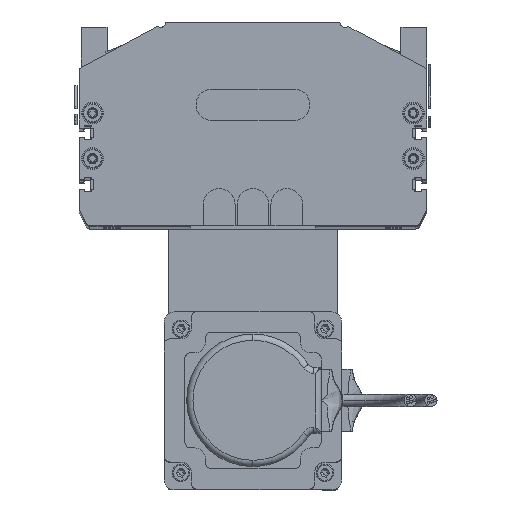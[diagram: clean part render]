
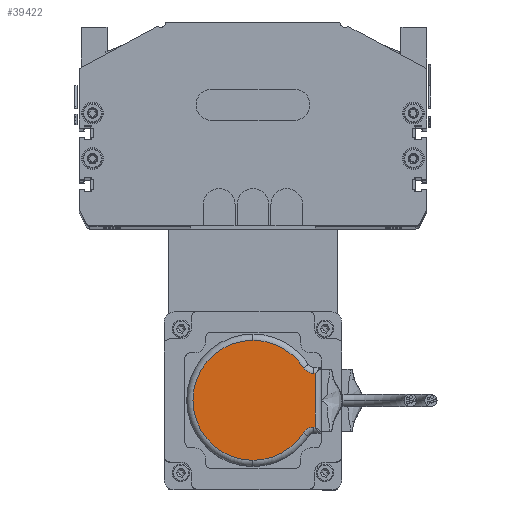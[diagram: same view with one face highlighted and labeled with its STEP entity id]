
A CAD part, top view. The second image highlights one B-rep face of the part: STEP entity #39422.
In plain terms, the highlighted planar face has unit normal (0, 0, 1).
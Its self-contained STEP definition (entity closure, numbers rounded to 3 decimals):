
#16791 = VERTEX_POINT ( 'NONE', #38836 ) ;
#16807 = EDGE_CURVE ( 'NONE', #16822, #16791, #38907, .T. ) ;
#16822 = VERTEX_POINT ( 'NONE', #38938 ) ;
#16857 = VERTEX_POINT ( 'NONE', #38957 ) ;
#38836 = CARTESIAN_POINT ( 'NONE',  ( 4., 33., 26. ) ) ;
#38898 = DIRECTION ( 'NONE',  ( 1., 0., 0. ) ) ;
#38899 = DIRECTION ( 'NONE',  ( 0., 0., 1. ) ) ;
#38900 = CARTESIAN_POINT ( 'NONE',  ( 33., 33., 26. ) ) ;
#38907 = CIRCLE ( 'NONE', #38909, 29. ) ;
#38909 = AXIS2_PLACEMENT_3D ( 'NONE', #38900, #38899, #38898 ) ;
#38938 = CARTESIAN_POINT ( 'NONE',  ( 17.257, 57.355, 26. ) ) ;
#38957 = CARTESIAN_POINT ( 'NONE',  ( 62., 33., 26. ) ) ;
#39061 = VERTEX_POINT ( 'NONE', #71705 ) ;
#39212 = VERTEX_POINT ( 'NONE', #71682 ) ;
#39357 = ORIENTED_EDGE ( 'NONE', *, *, #39487, .T. ) ;
#39366 = EDGE_CURVE ( 'NONE', #16791, #16857, #71767, .T. ) ;
#39373 = ORIENTED_EDGE ( 'NONE', *, *, #39399, .T. ) ;
#39378 = VERTEX_POINT ( 'NONE', #71815 ) ;
#39386 = EDGE_LOOP ( 'NONE', ( #39403, #39402, #39418, #39416, #39398, #39373, #39357, #39411 ) ) ;
#39398 = ORIENTED_EDGE ( 'NONE', *, *, #39414, .F. ) ;
#39399 = EDGE_CURVE ( 'NONE', #39061, #39415, #71881, .T. ) ;
#39402 = ORIENTED_EDGE ( 'NONE', *, *, #16807, .T. ) ;
#39403 = ORIENTED_EDGE ( 'NONE', *, *, #39413, .F. ) ;
#39411 = ORIENTED_EDGE ( 'NONE', *, *, #39480, .T. ) ;
#39412 = VERTEX_POINT ( 'NONE', #71925 ) ;
#39413 = EDGE_CURVE ( 'NONE', #16822, #39212, #71930, .T. ) ;
#39414 = EDGE_CURVE ( 'NONE', #39061, #39378, #71927, .T. ) ;
#39415 = VERTEX_POINT ( 'NONE', #71931 ) ;
#39416 = ORIENTED_EDGE ( 'NONE', *, *, #39417, .T. ) ;
#39417 = EDGE_CURVE ( 'NONE', #16857, #39378, #71972, .T. ) ;
#39418 = ORIENTED_EDGE ( 'NONE', *, *, #39366, .T. ) ;
#39422 = ADVANCED_FACE ( 'NONE', ( #71964 ), #71917, .T. ) ;
#39480 = EDGE_CURVE ( 'NONE', #39412, #39212, #72160, .T. ) ;
#39487 = EDGE_CURVE ( 'NONE', #39415, #39412, #72209, .T. ) ;
#71682 = CARTESIAN_POINT ( 'NONE',  ( 20., 62.394, 26. ) ) ;
#71705 = CARTESIAN_POINT ( 'NONE',  ( 46., 62.394, 26. ) ) ;
#71745 = DIRECTION ( 'NONE',  ( 1., 0., 0. ) ) ;
#71746 = DIRECTION ( 'NONE',  ( 0., 0., 1. ) ) ;
#71747 = CARTESIAN_POINT ( 'NONE',  ( 33., 33., 26. ) ) ;
#71748 = AXIS2_PLACEMENT_3D ( 'NONE', #71747, #71746, #71745 ) ;
#71767 = CIRCLE ( 'NONE', #71748, 29. ) ;
#71815 = CARTESIAN_POINT ( 'NONE',  ( 48.743, 57.355, 26. ) ) ;
#71878 = DIRECTION ( 'NONE',  ( 0., 1., 0. ) ) ;
#71879 = VECTOR ( 'NONE', #71878, 1000. ) ;
#71880 = CARTESIAN_POINT ( 'NONE',  ( 46., 33., 26. ) ) ;
#71881 = LINE ( 'NONE', #71880, #71879 ) ;
#71909 = DIRECTION ( 'NONE',  ( 1., 0., 0. ) ) ;
#71910 = AXIS2_PLACEMENT_3D ( 'NONE', #71973, #71961, #71960 ) ;
#71914 = DIRECTION ( 'NONE',  ( 1., 0., 0. ) ) ;
#71915 = DIRECTION ( 'NONE',  ( 0., 0., 1. ) ) ;
#71916 = CARTESIAN_POINT ( 'NONE',  ( 52., 62.394, 26. ) ) ;
#71917 = PLANE ( 'NONE',  #71910 ) ;
#71919 = DIRECTION ( 'NONE',  ( 0., 0., 1. ) ) ;
#71920 = CARTESIAN_POINT ( 'NONE',  ( 14., 62.394, 26. ) ) ;
#71925 = CARTESIAN_POINT ( 'NONE',  ( 20., 63., 26. ) ) ;
#71926 = AXIS2_PLACEMENT_3D ( 'NONE', #71920, #71915, #71914 ) ;
#71927 = CIRCLE ( 'NONE', #71929, 6. ) ;
#71929 = AXIS2_PLACEMENT_3D ( 'NONE', #71916, #71919, #71909 ) ;
#71930 = CIRCLE ( 'NONE', #71926, 6. ) ;
#71931 = CARTESIAN_POINT ( 'NONE',  ( 46., 63., 26. ) ) ;
#71960 = DIRECTION ( 'NONE',  ( 1., 0., 0. ) ) ;
#71961 = DIRECTION ( 'NONE',  ( 0., 0., 1. ) ) ;
#71964 = FACE_OUTER_BOUND ( 'NONE', #39386, .T. ) ;
#71968 = DIRECTION ( 'NONE',  ( 1., 0., 0. ) ) ;
#71969 = DIRECTION ( 'NONE',  ( 0., 0., 1. ) ) ;
#71970 = CARTESIAN_POINT ( 'NONE',  ( 33., 33., 26. ) ) ;
#71971 = AXIS2_PLACEMENT_3D ( 'NONE', #71970, #71969, #71968 ) ;
#71972 = CIRCLE ( 'NONE', #71971, 29. ) ;
#71973 = CARTESIAN_POINT ( 'NONE',  ( 33., 33., 26. ) ) ;
#72157 = DIRECTION ( 'NONE',  ( 0., -1., 0. ) ) ;
#72158 = VECTOR ( 'NONE', #72157, 1000. ) ;
#72159 = CARTESIAN_POINT ( 'NONE',  ( 20., 33., 26. ) ) ;
#72160 = LINE ( 'NONE', #72159, #72158 ) ;
#72198 = VECTOR ( 'NONE', #72200, 1000. ) ;
#72200 = DIRECTION ( 'NONE',  ( -1., 0., 0. ) ) ;
#72201 = CARTESIAN_POINT ( 'NONE',  ( 17.5, 63., 26. ) ) ;
#72209 = LINE ( 'NONE', #72201, #72198 ) ;
